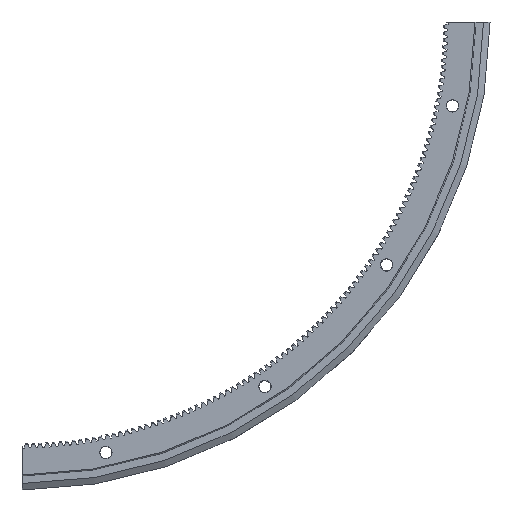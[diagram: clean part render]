
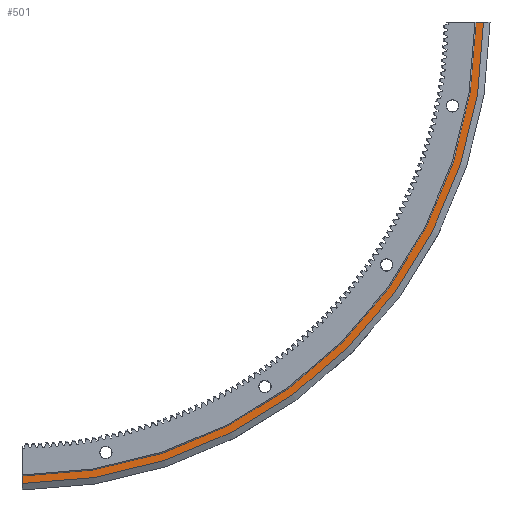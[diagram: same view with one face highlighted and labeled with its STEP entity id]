
A CAD part, front view. The second image highlights one B-rep face of the part: STEP entity #501.
In plain terms, the highlighted planar face has unit normal (0, -1, 0).
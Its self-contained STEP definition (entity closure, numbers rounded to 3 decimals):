
#501 = ADVANCED_FACE( '', ( #1469 ), #1470, .T. );
#1469 = FACE_OUTER_BOUND( '', #2535, .T. );
#1470 = PLANE( '', #2536 );
#2535 = EDGE_LOOP( '', ( #6280, #6281, #6282, #6283 ) );
#2536 = AXIS2_PLACEMENT_3D( '', #6284, #6285, #6286 );
#6280 = ORIENTED_EDGE( '', *, *, #8343, .T. );
#6281 = ORIENTED_EDGE( '', *, *, #8869, .T. );
#6282 = ORIENTED_EDGE( '', *, *, #8870, .F. );
#6283 = ORIENTED_EDGE( '', *, *, #8336, .T. );
#6284 = CARTESIAN_POINT( '', ( 0., 15., -423.4 ) );
#6285 = DIRECTION( '', ( 0., -1., 0. ) );
#6286 = DIRECTION( '', ( 0., 0., -1. ) );
#8336 = EDGE_CURVE( '', #10852, #10850, #10853, .T. );
#8343 = EDGE_CURVE( '', #10850, #10863, #10865, .T. );
#8869 = EDGE_CURVE( '', #10863, #11421, #11422, .T. );
#8870 = EDGE_CURVE( '', #10852, #11421, #11423, .T. );
#10850 = VERTEX_POINT( '', #14792 );
#10852 = VERTEX_POINT( '', #14797 );
#10853 = LINE( '', #14798, #14799 );
#10863 = VERTEX_POINT( '', #14815 );
#10865 = CIRCLE( '', #14820, 430.943 );
#11421 = VERTEX_POINT( '', #15399 );
#11422 = LINE( '', #15400, #15401 );
#11423 = CIRCLE( '', #15402, 423.4 );
#14792 = CARTESIAN_POINT( '', ( 2., 15., -430.939 ) );
#14797 = CARTESIAN_POINT( '', ( 2., 15., -423.395 ) );
#14798 = CARTESIAN_POINT( '', ( 2., 15., -423.4 ) );
#14799 = VECTOR( '', #16204, 1000. );
#14815 = CARTESIAN_POINT( '', ( 430.939, 15., -2. ) );
#14820 = AXIS2_PLACEMENT_3D( '', #16211, #16212, #16213 );
#15399 = CARTESIAN_POINT( '', ( 423.395, 15., -2. ) );
#15400 = CARTESIAN_POINT( '', ( 0., 15., -2. ) );
#15401 = VECTOR( '', #17764, 1000. );
#15402 = AXIS2_PLACEMENT_3D( '', #17765, #17766, #17767 );
#16204 = DIRECTION( '', ( 0., 0., -1. ) );
#16211 = CARTESIAN_POINT( '', ( 0., 15., 0. ) );
#16212 = DIRECTION( '', ( 0., -1., 0. ) );
#16213 = DIRECTION( '', ( 0., 0., -1. ) );
#17764 = DIRECTION( '', ( -1., 0., 0. ) );
#17765 = CARTESIAN_POINT( '', ( 0., 15., 0. ) );
#17766 = DIRECTION( '', ( 0., -1., 0. ) );
#17767 = DIRECTION( '', ( 0., 0., -1. ) );
